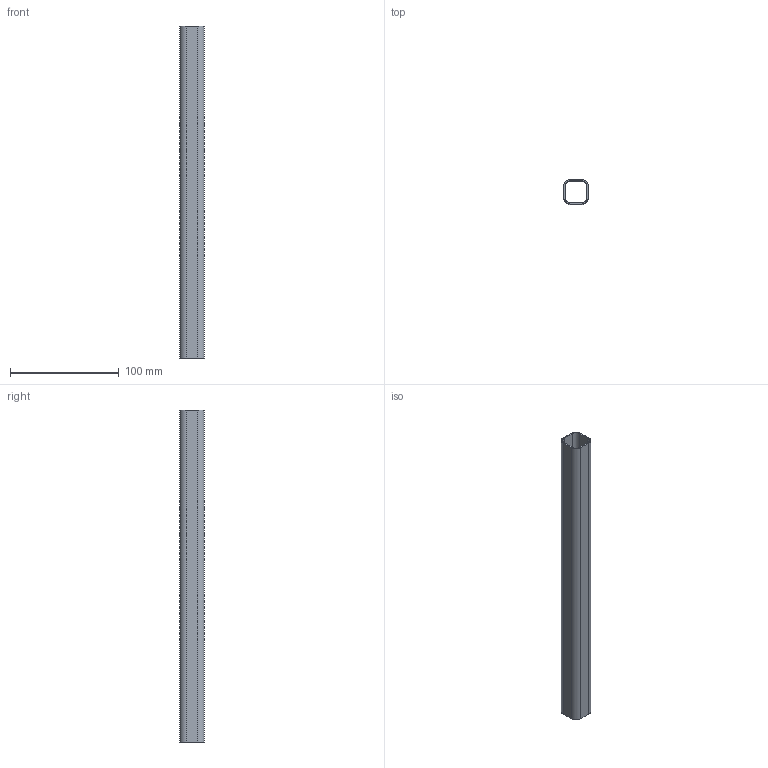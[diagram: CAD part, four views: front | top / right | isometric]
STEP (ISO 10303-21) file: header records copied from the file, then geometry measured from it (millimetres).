
FILE_DESCRIPTION (( 'STEP AP214' ), '1' );
FILE_NAME ('DRP-002-0001-03.STEP', '2011-12-06T22:15:57', ( 'Allred & Associates' ), ( 'Allred & Associates' ), 'SwSTEP 2.0', 'SolidWorks 2011', '' );
FILE_SCHEMA (( 'AUTOMOTIVE_DESIGN' ));
Length unit declared in the file: inch
Products named in the file (1): DRP-002-0001-03
Bounding box: 22.61 x 22.61 x 304.8 mm (x, y, z)
Volume: 29396.5 mm3; surface area: 46486.7 mm2
Topology: 1 solids, 1 shells, 18 faces, 48 edges, 32 vertices
Faces by surface type: plane 10, cylinder 8
Entity records: 612 total; most frequent: DIRECTION 102, CARTESIAN_POINT 99, ORIENTED_EDGE 96, EDGE_CURVE 48, AXIS2_PLACEMENT_3D 35, LINE 32, VECTOR 32, VERTEX_POINT 32
